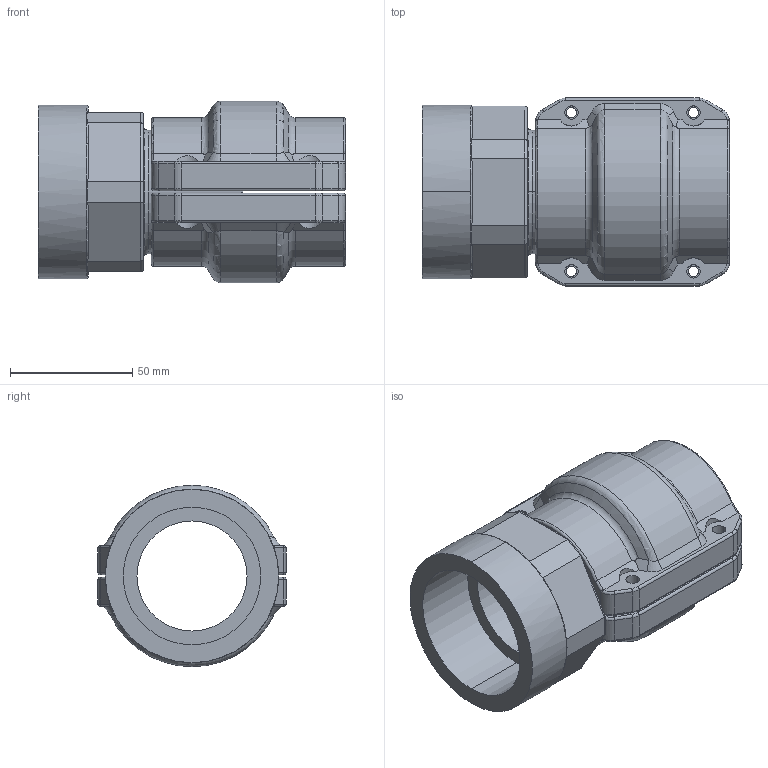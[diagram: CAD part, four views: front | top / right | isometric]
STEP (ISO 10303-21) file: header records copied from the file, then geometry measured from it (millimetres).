
FILE_DESCRIPTION((''),'2;1');
FILE_NAME('AU15551999_ASM','2017-05-16T',('Administrator'),(''),'PRO/ENGINEER BY PARAMETRIC TECHNOLOGY CORPORATION, 2009360','PRO/ENGINEER BY PARAMETRIC TECHNOLOGY CORPORATION, 2009360','');
FILE_SCHEMA(('AUTOMOTIVE_DESIGN_CC2 { 1 2 10303 214 -1 1 5 2 }'));
Length unit declared in the file: millimetre
Products named in the file (6): AU15551900_1; 201550020001_1; 201550020000_1; 2015500200_ASM_1_ASM; AU15551999_ASM_3_ASM; AU15551999_ASM
Assembly tree (5 placements, depth 4):
  AU15551999_ASM
    AU15551999_ASM_3_ASM
      AU15551900_1
      2015500200_ASM_1_ASM
        201550020001_1
        201550020000_1
Bounding box: 125.75 x 77 x 74.3 mm (x, y, z)
Volume: 221143.8 mm3; surface area: 71464.6 mm2
Topology: 3 solids, 3 shells, 274 faces, 688 edges, 414 vertices
Faces by surface type: cylinder 112, torus 68, plane 58, bspline 24, sphere 8, cone 4
Entity records: 11963 total; most frequent: CARTESIAN_POINT 3345, DIRECTION 1372, ORIENTED_EDGE 1360, PRESENTATION_STYLE_ASSIGNMENT 683, STYLED_ITEM 683, CURVE_STYLE 680, EDGE_CURVE 680, AXIS2_PLACEMENT_3D 569
